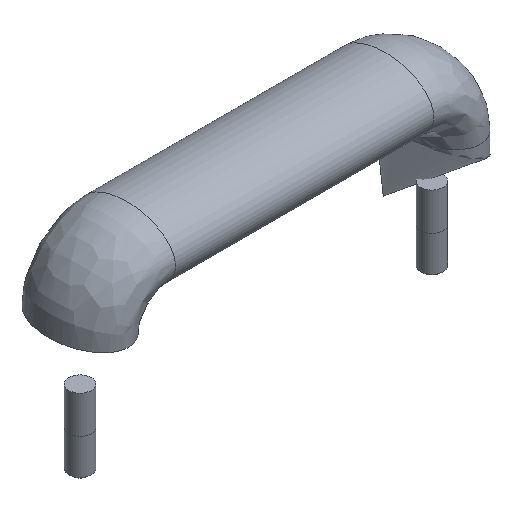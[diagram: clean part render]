
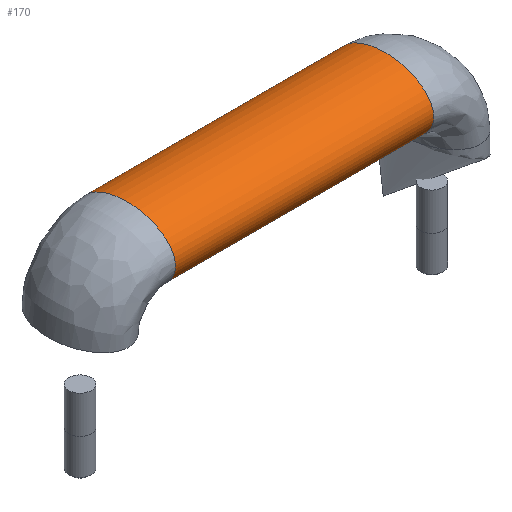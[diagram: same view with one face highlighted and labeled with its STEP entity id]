
A CAD part, isometric view. The second image highlights one B-rep face of the part: STEP entity #170.
In plain terms, the highlighted free-form (B-spline) face has degree [2, 1] with [9, 2] control points.
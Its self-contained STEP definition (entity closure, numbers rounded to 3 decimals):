
#101=CARTESIAN_POINT('',(12.5,13.,37.5));
#102=VERTEX_POINT('',#101);
#112=CARTESIAN_POINT('',(12.5,13.,37.5));
#113=CARTESIAN_POINT('',(12.5,13.,46.));
#114=CARTESIAN_POINT('',(12.5,0.,46.));
#115=CARTESIAN_POINT('',(12.5,-13.,46.));
#116=CARTESIAN_POINT('',(12.5,-13.,37.5));
#117=CARTESIAN_POINT('',(12.5,-13.,29.));
#118=CARTESIAN_POINT('',(12.5,0.,29.));
#119=CARTESIAN_POINT('',(12.5,13.,29.));
#120=CARTESIAN_POINT('',(12.5,13.,37.5));
#121=(BOUNDED_CURVE()B_SPLINE_CURVE(2,(#112,#113,#114,#115,#116,#117,#118,#119,#120),.UNSPECIFIED.,.T.,.U.)B_SPLINE_CURVE_WITH_KNOTS((3,2,2,2,3),(0.,0.25,0.5,0.75,1.),.UNSPECIFIED.)CURVE()GEOMETRIC_REPRESENTATION_ITEM()RATIONAL_B_SPLINE_CURVE((1.,0.707,1.,0.707,1.,0.707,1.,0.707,1.))REPRESENTATION_ITEM(''));
#122=EDGE_CURVE('',#102,#102,#121,.T.);
#127=CARTESIAN_POINT('',(12.5,13.,37.5));
#128=CARTESIAN_POINT('',(81.5,13.,37.5));
#129=CARTESIAN_POINT('',(12.5,13.,46.));
#130=CARTESIAN_POINT('',(81.5,13.,46.));
#131=CARTESIAN_POINT('',(12.5,0.,46.));
#132=CARTESIAN_POINT('',(81.5,0.,46.));
#133=CARTESIAN_POINT('',(12.5,-13.,46.));
#134=CARTESIAN_POINT('',(81.5,-13.,46.));
#135=CARTESIAN_POINT('',(12.5,-13.,37.5));
#136=CARTESIAN_POINT('',(81.5,-13.,37.5));
#137=CARTESIAN_POINT('',(12.5,-13.,29.));
#138=CARTESIAN_POINT('',(81.5,-13.,29.));
#139=CARTESIAN_POINT('',(12.5,0.,29.));
#140=CARTESIAN_POINT('',(81.5,0.,29.));
#141=CARTESIAN_POINT('',(12.5,13.,29.));
#142=CARTESIAN_POINT('',(81.5,13.,29.));
#143=CARTESIAN_POINT('',(12.5,13.,37.5));
#144=CARTESIAN_POINT('',(81.5,13.,37.5));
#145=(BOUNDED_SURFACE()B_SPLINE_SURFACE(2,1,((#127,#128),(#129,#130),(#131,#132),(#133,#134),(#135,#136),(#137,#138),(#139,#140),(#141,#142),(#143,#144)),.SURF_OF_LINEAR_EXTRUSION.,.T.,.F.,.U.)B_SPLINE_SURFACE_WITH_KNOTS((3,2,2,2,3),(2,2),(0.,0.25,0.5,0.75,1.),(0.,1.),.UNSPECIFIED.)GEOMETRIC_REPRESENTATION_ITEM()RATIONAL_B_SPLINE_SURFACE(((1.,1.),(0.707,0.707),(1.,1.),(0.707,0.707),(1.,1.),(0.707,0.707),(1.,1.),(0.707,0.707),(1.,1.)))REPRESENTATION_ITEM('')SURFACE());
#146=CARTESIAN_POINT('',(81.5,13.,37.5));
#147=VERTEX_POINT('',#146);
#148=CARTESIAN_POINT('',(12.5,13.,37.5));
#149=DIRECTION('',(1.,0.,0.));
#150=VECTOR('',#149,69.);
#151=LINE('',#148,#150);
#152=EDGE_CURVE('',#102,#147,#151,.T.);
#153=ORIENTED_EDGE('E7',*,*,#152,.F.);
#154=ORIENTED_EDGE('E7',*,*,#122,.T.);
#155=ORIENTED_EDGE('E7',*,*,#152,.T.);
#156=CARTESIAN_POINT('',(81.5,13.,37.5));
#157=CARTESIAN_POINT('',(81.5,13.,46.));
#158=CARTESIAN_POINT('',(81.5,0.,46.));
#159=CARTESIAN_POINT('',(81.5,-13.,46.));
#160=CARTESIAN_POINT('',(81.5,-13.,37.5));
#161=CARTESIAN_POINT('',(81.5,-13.,29.));
#162=CARTESIAN_POINT('',(81.5,0.,29.));
#163=CARTESIAN_POINT('',(81.5,13.,29.));
#164=CARTESIAN_POINT('',(81.5,13.,37.5));
#165=(BOUNDED_CURVE()B_SPLINE_CURVE(2,(#156,#157,#158,#159,#160,#161,#162,#163,#164),.UNSPECIFIED.,.T.,.U.)B_SPLINE_CURVE_WITH_KNOTS((3,2,2,2,3),(0.,0.25,0.5,0.75,1.),.UNSPECIFIED.)CURVE()GEOMETRIC_REPRESENTATION_ITEM()RATIONAL_B_SPLINE_CURVE((1.,0.707,1.,0.707,1.,0.707,1.,0.707,1.))REPRESENTATION_ITEM(''));
#166=EDGE_CURVE('',#147,#147,#165,.T.);
#167=ORIENTED_EDGE('E8',*,*,#166,.F.);
#168=EDGE_LOOP('',(#153,#154,#155,#167));
#169=FACE_OUTER_BOUND('',#168,.T.);
#170=ADVANCED_FACE('F5',(#169),#145,.T.);
